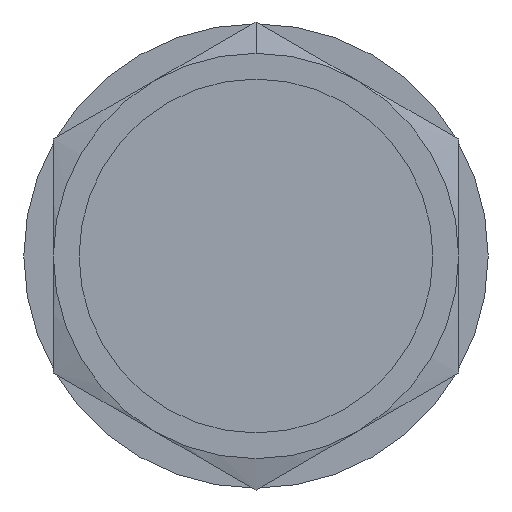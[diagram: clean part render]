
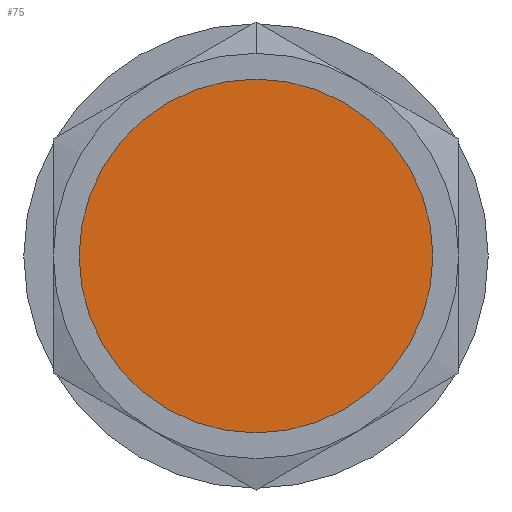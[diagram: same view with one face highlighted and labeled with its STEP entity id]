
A CAD part, front view. The second image highlights one B-rep face of the part: STEP entity #75.
In plain terms, the highlighted planar face has unit normal (0, -1, 0).
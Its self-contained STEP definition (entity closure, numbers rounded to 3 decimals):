
#75 = ADVANCED_FACE ( 'NONE', ( #1821 ), #525, .F. ) ;
#213 = CARTESIAN_POINT ( 'NONE',  ( 0., -7.1, 10.478 ) ) ;
#309 = DIRECTION ( 'NONE',  ( 0., -1., 0. ) ) ;
#344 = CARTESIAN_POINT ( 'NONE',  ( 0., -7.1, 0. ) ) ;
#448 = CARTESIAN_POINT ( 'NONE',  ( 0., -7.1, 0. ) ) ;
#510 = AXIS2_PLACEMENT_3D ( 'NONE', #448, #309, #888 ) ;
#525 = PLANE ( 'NONE',  #1556 ) ;
#619 = DIRECTION ( 'NONE',  ( 0., -1., 0. ) ) ;
#622 = ORIENTED_EDGE ( 'NONE', *, *, #1246, .T. ) ;
#643 = DIRECTION ( 'NONE',  ( 1., 0., 0. ) ) ;
#888 = DIRECTION ( 'NONE',  ( 0., 0., -1. ) ) ;
#940 = CIRCLE ( 'NONE', #510, 10.478 ) ;
#992 = CARTESIAN_POINT ( 'NONE',  ( 0., -7.1, -10.478 ) ) ;
#1054 = VERTEX_POINT ( 'NONE', #992 ) ;
#1210 = DIRECTION ( 'NONE',  ( 0., 1., 0. ) ) ;
#1212 = DIRECTION ( 'NONE',  ( 0., 0., -1. ) ) ;
#1246 = EDGE_CURVE ( 'NONE', #1054, #1637, #940, .T. ) ;
#1248 = CARTESIAN_POINT ( 'NONE',  ( 10.478, -7.1, 0. ) ) ;
#1556 = AXIS2_PLACEMENT_3D ( 'NONE', #1248, #1210, #643 ) ;
#1574 = EDGE_LOOP ( 'NONE', ( #622, #1628 ) ) ;
#1628 = ORIENTED_EDGE ( 'NONE', *, *, #1792, .T. ) ;
#1637 = VERTEX_POINT ( 'NONE', #213 ) ;
#1746 = CIRCLE ( 'NONE', #1774, 10.478 ) ;
#1774 = AXIS2_PLACEMENT_3D ( 'NONE', #344, #619, #1212 ) ;
#1792 = EDGE_CURVE ( 'NONE', #1637, #1054, #1746, .T. ) ;
#1821 = FACE_OUTER_BOUND ( 'NONE', #1574, .T. ) ;
